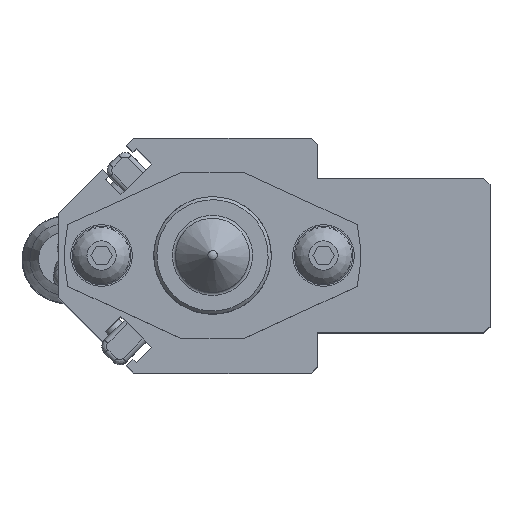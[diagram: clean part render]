
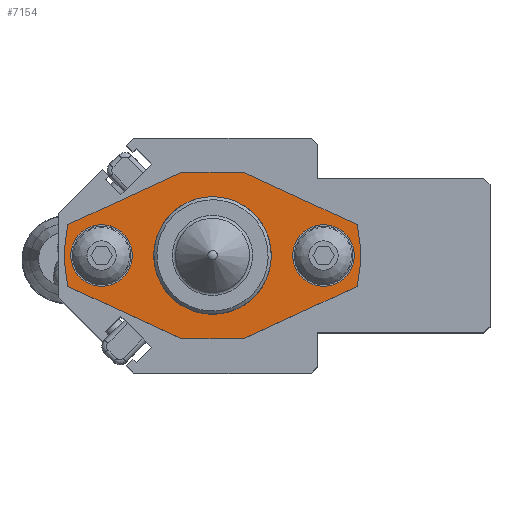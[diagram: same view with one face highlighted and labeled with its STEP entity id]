
A CAD part, top view. The second image highlights one B-rep face of the part: STEP entity #7154.
In plain terms, the highlighted planar face has unit normal (0, 0, 1).
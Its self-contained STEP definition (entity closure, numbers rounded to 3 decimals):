
#411=FACE_BOUND('',#1120,.T.);
#412=FACE_BOUND('',#1121,.T.);
#413=FACE_BOUND('',#1122,.T.);
#493=PLANE('',#7935);
#709=FACE_OUTER_BOUND('',#1119,.T.);
#1119=EDGE_LOOP('',(#5002,#5003,#5004,#5005,#5006,#5007,#5008,#5009));
#1120=EDGE_LOOP('',(#5010,#5011));
#1121=EDGE_LOOP('',(#5012,#5013));
#1122=EDGE_LOOP('',(#5014,#5015));
#1595=LINE('',#11024,#2165);
#1602=LINE('',#11043,#2172);
#1603=LINE('',#11046,#2173);
#1604=LINE('',#11047,#2174);
#1605=LINE('',#11049,#2175);
#1606=LINE('',#11050,#2176);
#2165=VECTOR('',#8814,10.);
#2172=VECTOR('',#8831,10.);
#2173=VECTOR('',#8834,10.);
#2174=VECTOR('',#8835,10.);
#2175=VECTOR('',#8836,10.);
#2176=VECTOR('',#8837,10.);
#2724=CIRCLE('',#7925,24.);
#2726=CIRCLE('',#7928,24.);
#2730=CIRCLE('',#7936,5.);
#2731=CIRCLE('',#7937,5.);
#2732=CIRCLE('',#7938,5.);
#2733=CIRCLE('',#7939,5.);
#2734=CIRCLE('',#7940,9.55);
#2735=CIRCLE('',#7941,9.55);
#3145=VERTEX_POINT('',#11005);
#3146=VERTEX_POINT('',#11007);
#3149=VERTEX_POINT('',#11014);
#3150=VERTEX_POINT('',#11016);
#3152=VERTEX_POINT('',#11022);
#3159=VERTEX_POINT('',#11041);
#3160=VERTEX_POINT('',#11045);
#3161=VERTEX_POINT('',#11048);
#3162=VERTEX_POINT('',#11051);
#3163=VERTEX_POINT('',#11052);
#3164=VERTEX_POINT('',#11055);
#3165=VERTEX_POINT('',#11056);
#3166=VERTEX_POINT('',#11059);
#3167=VERTEX_POINT('',#11060);
#3874=EDGE_CURVE('',#3146,#3145,#2724,.T.);
#3878=EDGE_CURVE('',#3150,#3149,#2726,.T.);
#3882=EDGE_CURVE('',#3145,#3152,#1595,.T.);
#3892=EDGE_CURVE('',#3149,#3159,#1602,.T.);
#3893=EDGE_CURVE('',#3152,#3160,#1603,.T.);
#3894=EDGE_CURVE('',#3160,#3150,#1604,.T.);
#3895=EDGE_CURVE('',#3159,#3161,#1605,.T.);
#3896=EDGE_CURVE('',#3161,#3146,#1606,.T.);
#3897=EDGE_CURVE('',#3162,#3163,#2730,.T.);
#3898=EDGE_CURVE('',#3163,#3162,#2731,.T.);
#3899=EDGE_CURVE('',#3164,#3165,#2732,.T.);
#3900=EDGE_CURVE('',#3165,#3164,#2733,.T.);
#3901=EDGE_CURVE('',#3166,#3167,#2734,.T.);
#3902=EDGE_CURVE('',#3167,#3166,#2735,.T.);
#5002=ORIENTED_EDGE('',*,*,#3874,.T.);
#5003=ORIENTED_EDGE('',*,*,#3882,.T.);
#5004=ORIENTED_EDGE('',*,*,#3893,.T.);
#5005=ORIENTED_EDGE('',*,*,#3894,.T.);
#5006=ORIENTED_EDGE('',*,*,#3878,.T.);
#5007=ORIENTED_EDGE('',*,*,#3892,.T.);
#5008=ORIENTED_EDGE('',*,*,#3895,.T.);
#5009=ORIENTED_EDGE('',*,*,#3896,.T.);
#5010=ORIENTED_EDGE('',*,*,#3897,.T.);
#5011=ORIENTED_EDGE('',*,*,#3898,.T.);
#5012=ORIENTED_EDGE('',*,*,#3899,.T.);
#5013=ORIENTED_EDGE('',*,*,#3900,.T.);
#5014=ORIENTED_EDGE('',*,*,#3901,.T.);
#5015=ORIENTED_EDGE('',*,*,#3902,.T.);
#7154=ADVANCED_FACE('',(#709,#411,#412,#413),#493,.T.);
#7925=AXIS2_PLACEMENT_3D('',#11008,#8799,#8800);
#7928=AXIS2_PLACEMENT_3D('',#11017,#8807,#8808);
#7935=AXIS2_PLACEMENT_3D('',#11044,#8832,#8833);
#7936=AXIS2_PLACEMENT_3D('',#11053,#8838,#8839);
#7937=AXIS2_PLACEMENT_3D('',#11054,#8840,#8841);
#7938=AXIS2_PLACEMENT_3D('',#11057,#8842,#8843);
#7939=AXIS2_PLACEMENT_3D('',#11058,#8844,#8845);
#7940=AXIS2_PLACEMENT_3D('',#11061,#8846,#8847);
#7941=AXIS2_PLACEMENT_3D('',#11062,#8848,#8849);
#8799=DIRECTION('center_axis',(0.,0.,1.));
#8800=DIRECTION('ref_axis',(0.978,-0.208,0.));
#8807=DIRECTION('center_axis',(0.,0.,1.));
#8808=DIRECTION('ref_axis',(-0.978,0.208,0.));
#8814=DIRECTION('',(0.908,-0.418,0.));
#8831=DIRECTION('',(-0.908,0.418,0.));
#8832=DIRECTION('center_axis',(0.,0.,1.));
#8833=DIRECTION('ref_axis',(1.,0.,0.));
#8834=DIRECTION('',(1.,0.,0.));
#8835=DIRECTION('',(0.908,0.418,0.));
#8836=DIRECTION('',(-1.,0.,0.));
#8837=DIRECTION('',(-0.908,-0.418,0.));
#8838=DIRECTION('center_axis',(0.,0.,-1.));
#8839=DIRECTION('ref_axis',(1.,0.,0.));
#8840=DIRECTION('center_axis',(0.,0.,-1.));
#8841=DIRECTION('ref_axis',(1.,0.,0.));
#8842=DIRECTION('center_axis',(0.,0.,-1.));
#8843=DIRECTION('ref_axis',(1.,0.,0.));
#8844=DIRECTION('center_axis',(0.,0.,-1.));
#8845=DIRECTION('ref_axis',(1.,0.,0.));
#8846=DIRECTION('center_axis',(0.,0.,-1.));
#8847=DIRECTION('ref_axis',(1.,0.,0.));
#8848=DIRECTION('center_axis',(0.,0.,-1.));
#8849=DIRECTION('ref_axis',(1.,0.,0.));
#11005=CARTESIAN_POINT('',(-23.473,-5.001,6.));
#11007=CARTESIAN_POINT('',(-23.473,5.001,6.));
#11008=CARTESIAN_POINT('Origin',(0.,0.,6.));
#11014=CARTESIAN_POINT('',(23.473,5.001,6.));
#11016=CARTESIAN_POINT('',(23.473,-5.001,6.));
#11017=CARTESIAN_POINT('Origin',(0.,0.,6.));
#11022=CARTESIAN_POINT('',(-5.,-13.5,6.));
#11024=CARTESIAN_POINT('',(-15.7,-8.578,6.));
#11041=CARTESIAN_POINT('',(5.,13.5,6.));
#11043=CARTESIAN_POINT('',(15.7,8.578,6.));
#11044=CARTESIAN_POINT('Origin',(0.,0.,6.));
#11045=CARTESIAN_POINT('',(5.,-13.5,6.));
#11046=CARTESIAN_POINT('',(25.4,-13.5,6.));
#11047=CARTESIAN_POINT('',(15.7,-8.578,6.));
#11048=CARTESIAN_POINT('',(-5.,13.5,6.));
#11049=CARTESIAN_POINT('',(-25.4,13.5,6.));
#11050=CARTESIAN_POINT('',(-15.7,8.578,6.));
#11051=CARTESIAN_POINT('',(-13.,0.,6.));
#11052=CARTESIAN_POINT('',(-23.,0.,6.));
#11053=CARTESIAN_POINT('Origin',(-18.,0.,6.));
#11054=CARTESIAN_POINT('Origin',(-18.,0.,6.));
#11055=CARTESIAN_POINT('',(23.,0.,6.));
#11056=CARTESIAN_POINT('',(13.,0.,6.));
#11057=CARTESIAN_POINT('Origin',(18.,0.,6.));
#11058=CARTESIAN_POINT('Origin',(18.,0.,6.));
#11059=CARTESIAN_POINT('',(9.55,0.,6.));
#11060=CARTESIAN_POINT('',(-9.55,0.,6.));
#11061=CARTESIAN_POINT('Origin',(0.,0.,6.));
#11062=CARTESIAN_POINT('Origin',(0.,0.,6.));
